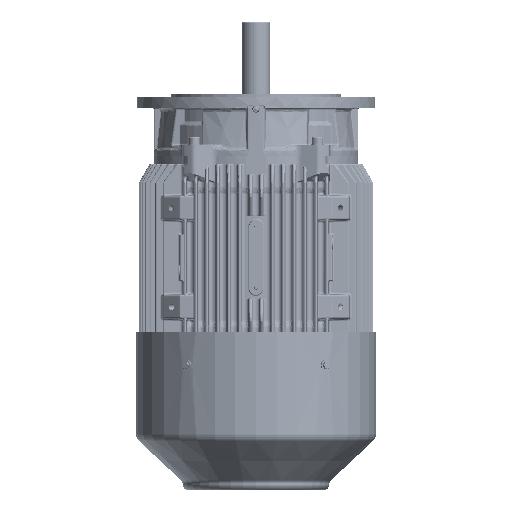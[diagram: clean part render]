
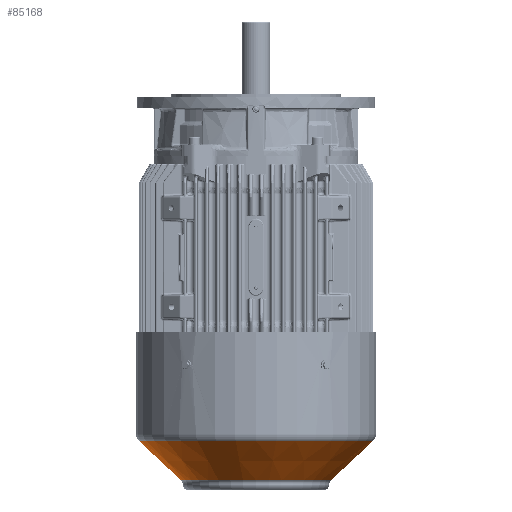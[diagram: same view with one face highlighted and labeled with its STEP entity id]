
A CAD part, front view. The second image highlights one B-rep face of the part: STEP entity #85168.
In plain terms, the highlighted conical face has half-angle 47 degrees and reference radius 110.044 mm.
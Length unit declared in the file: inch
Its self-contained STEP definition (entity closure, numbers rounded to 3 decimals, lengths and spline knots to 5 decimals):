
#1521 = LINE ( 'NONE', #127227, #185408 ) ;
#12767 = DIRECTION ( 'NONE',  ( 0., 0., 1. ) ) ;
#16478 = CONICAL_SURFACE ( 'NONE', #292400, 4.33244, 0.82 ) ;
#27410 = CARTESIAN_POINT ( 'NONE',  ( 0., 0., -12.85453 ) ) ;
#27445 = ORIENTED_EDGE ( 'NONE', *, *, #200359, .F. ) ;
#64897 = CARTESIAN_POINT ( 'NONE',  ( -4.33244, 0., -12.85453 ) ) ;
#74127 = VERTEX_POINT ( 'NONE', #76134 ) ;
#76134 = CARTESIAN_POINT ( 'NONE',  ( 4.33244, 0., -12.85453 ) ) ;
#83169 = EDGE_CURVE ( 'NONE', #238313, #74127, #159808, .T. ) ;
#85168 = ADVANCED_FACE ( 'NONE', ( #363642 ), #16478, .T. ) ;
#91677 = ORIENTED_EDGE ( 'NONE', *, *, #83169, .T. ) ;
#114828 = ORIENTED_EDGE ( 'NONE', *, *, #249435, .T. ) ;
#119718 = DIRECTION ( 'NONE',  ( 0., 0., 1. ) ) ;
#121369 = DIRECTION ( 'NONE',  ( 0.731, 0., 0.682 ) ) ;
#126331 = CARTESIAN_POINT ( 'NONE',  ( -6.74134, 0., -10.60819 ) ) ;
#127227 = CARTESIAN_POINT ( 'NONE',  ( 4.33244, 0., -12.85453 ) ) ;
#132643 = DIRECTION ( 'NONE',  ( 1., 0., 0. ) ) ;
#137680 = VERTEX_POINT ( 'NONE', #126331 ) ;
#149197 = DIRECTION ( 'NONE',  ( 1., 0., 0. ) ) ;
#149932 = AXIS2_PLACEMENT_3D ( 'NONE', #221091, #12767, #132643 ) ;
#159808 = CIRCLE ( 'NONE', #254079, 4.33244 ) ;
#185408 = VECTOR ( 'NONE', #121369, 39.37008 ) ;
#200359 = EDGE_CURVE ( 'NONE', #238313, #137680, #245698, .T. ) ;
#212368 = DIRECTION ( 'NONE',  ( 0., 0., 1. ) ) ;
#221091 = CARTESIAN_POINT ( 'NONE',  ( 0., 0., -10.60819 ) ) ;
#233816 = EDGE_CURVE ( 'NONE', #137680, #381103, #356912, .T. ) ;
#238313 = VERTEX_POINT ( 'NONE', #340211 ) ;
#245698 = LINE ( 'NONE', #64897, #340602 ) ;
#248217 = ORIENTED_EDGE ( 'NONE', *, *, #233816, .F. ) ;
#249435 = EDGE_CURVE ( 'NONE', #74127, #381103, #1521, .T. ) ;
#254079 = AXIS2_PLACEMENT_3D ( 'NONE', #27410, #119718, #149197 ) ;
#292400 = AXIS2_PLACEMENT_3D ( 'NONE', #361688, #212368, #334164 ) ;
#305687 = CARTESIAN_POINT ( 'NONE',  ( 6.74134, 0., -10.60819 ) ) ;
#334164 = DIRECTION ( 'NONE',  ( 1., 0., 0. ) ) ;
#340211 = CARTESIAN_POINT ( 'NONE',  ( -4.33244, 0., -12.85453 ) ) ;
#340602 = VECTOR ( 'NONE', #361629, 39.37008 ) ;
#356912 = CIRCLE ( 'NONE', #149932, 6.74134 ) ;
#361629 = DIRECTION ( 'NONE',  ( -0.731, 0., 0.682 ) ) ;
#361688 = CARTESIAN_POINT ( 'NONE',  ( 0., 0., -12.85453 ) ) ;
#363642 = FACE_OUTER_BOUND ( 'NONE', #384458, .T. ) ;
#381103 = VERTEX_POINT ( 'NONE', #305687 ) ;
#384458 = EDGE_LOOP ( 'NONE', ( #27445, #91677, #114828, #248217 ) ) ;
